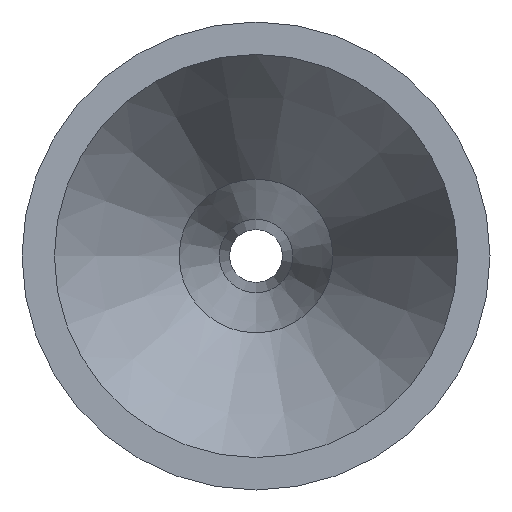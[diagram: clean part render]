
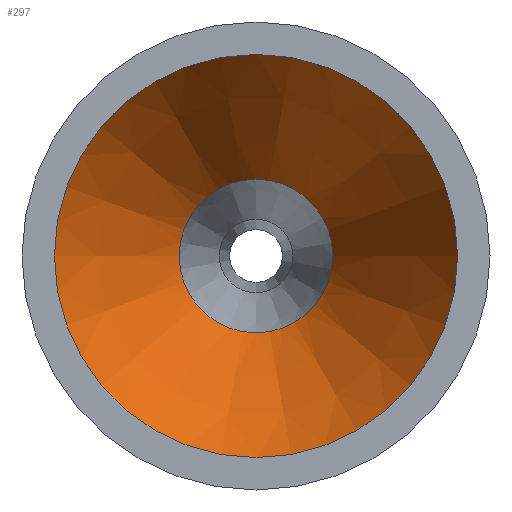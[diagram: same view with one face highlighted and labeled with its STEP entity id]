
A CAD part, left-side view. The second image highlights one B-rep face of the part: STEP entity #297.
In plain terms, the highlighted conical face has half-angle 29.887 degrees and reference radius 8.4 mm.
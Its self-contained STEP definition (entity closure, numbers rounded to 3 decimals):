
#3 = ORIENTED_EDGE ( 'NONE', *, *, #359, .T. ) ;
#15 = VERTEX_POINT ( 'NONE', #231 ) ;
#19 = FACE_OUTER_BOUND ( 'NONE', #70, .T. ) ;
#41 = CIRCLE ( 'NONE', #318, 8.4 ) ;
#52 = VERTEX_POINT ( 'NONE', #288 ) ;
#63 = CARTESIAN_POINT ( 'NONE',  ( 5.94, 0., 0. ) ) ;
#66 = AXIS2_PLACEMENT_3D ( 'NONE', #197, #360, #243 ) ;
#70 = EDGE_LOOP ( 'NONE', ( #3 ) ) ;
#95 = DIRECTION ( 'NONE',  ( 0., -1., 0. ) ) ;
#98 = ORIENTED_EDGE ( 'NONE', *, *, #312, .F. ) ;
#99 = CONICAL_SURFACE ( 'NONE', #66, 8.4, 0.522 ) ;
#168 = FACE_BOUND ( 'NONE', #307, .T. ) ;
#173 = CIRCLE ( 'NONE', #362, 3.2 ) ;
#180 = DIRECTION ( 'NONE',  ( -1., 0., 0. ) ) ;
#197 = CARTESIAN_POINT ( 'NONE',  ( 5.94, 0., 0. ) ) ;
#211 = CARTESIAN_POINT ( 'NONE',  ( 14.988, 0., 0. ) ) ;
#231 = CARTESIAN_POINT ( 'NONE',  ( 14.988, -3.2, 0. ) ) ;
#243 = DIRECTION ( 'NONE',  ( 0., -1., 0. ) ) ;
#277 = DIRECTION ( 'NONE',  ( -1., 0., 0. ) ) ;
#288 = CARTESIAN_POINT ( 'NONE',  ( 5.94, 0., 8.4 ) ) ;
#297 = ADVANCED_FACE ( 'NONE', ( #168, #19 ), #99, .F. ) ;
#305 = DIRECTION ( 'NONE',  ( 0., 0., 1. ) ) ;
#307 = EDGE_LOOP ( 'NONE', ( #98 ) ) ;
#312 = EDGE_CURVE ( 'NONE', #15, #15, #173, .T. ) ;
#318 = AXIS2_PLACEMENT_3D ( 'NONE', #63, #277, #305 ) ;
#359 = EDGE_CURVE ( 'NONE', #52, #52, #41, .T. ) ;
#360 = DIRECTION ( 'NONE',  ( -1., 0., 0. ) ) ;
#362 = AXIS2_PLACEMENT_3D ( 'NONE', #211, #180, #95 ) ;
